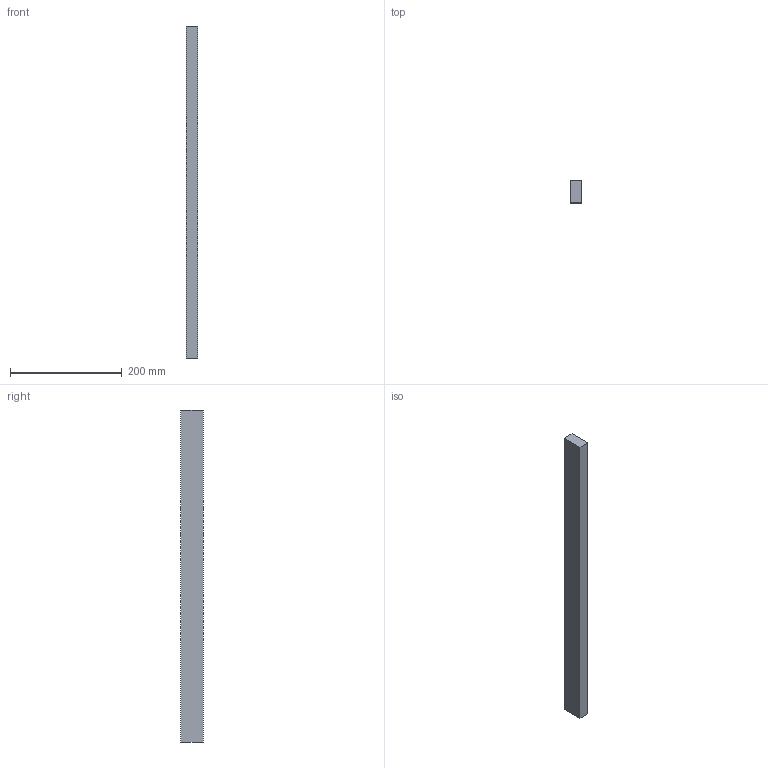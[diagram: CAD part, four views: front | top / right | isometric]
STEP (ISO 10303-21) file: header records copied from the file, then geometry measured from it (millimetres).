
FILE_DESCRIPTION(('Open CASCADE Model'),'2;1');
FILE_NAME('Open CASCADE Shape Model','2026-11-14T16:01:30',('Author'),( 'Open CASCADE'),'Open CASCADE STEP processor 7.9','Open CASCADE 7.9' ,'Unknown');
FILE_SCHEMA(('AUTOMOTIVE_DESIGN { 1 0 10303 214 1 1 1 1 }'));
Length unit declared in the file: millimetre
Products named in the file (1): Open CASCADE STEP translator 7.9 74
Bounding box: 20 x 40 x 594 mm (x, y, z)
Volume: 475200 mm3; surface area: 72880 mm2
Topology: 1 solids, 1 shells, 6 faces, 12 edges, 8 vertices
Faces by surface type: plane 6
Entity records: 322 total; most frequent: CARTESIAN_POINT 51, DIRECTION 50, LINE 36, VECTOR 36, ORIENTED_EDGE 24, PCURVE 24, DEFINITIONAL_REPRESENTATION 24, EDGE_CURVE 12
